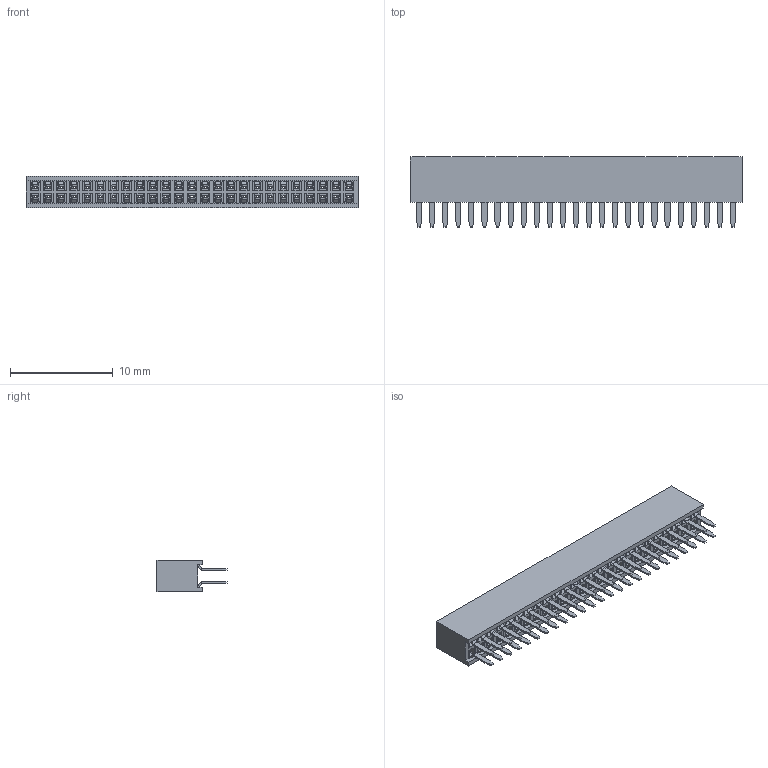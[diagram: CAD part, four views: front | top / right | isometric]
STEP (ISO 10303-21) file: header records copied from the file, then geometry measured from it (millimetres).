
FILE_DESCRIPTION((''),'2;1');
FILE_NAME('M50-300_ASM','2011-08-03T',('wbourne'),(''),'PRO/ENGINEER BY PARAMETRIC TECHNOLOGY CORPORATION, 2010280','PRO/ENGINEER BY PARAMETRIC TECHNOLOGY CORPORATION, 2010280','');
FILE_SCHEMA(('CONFIG_CONTROL_DESIGN','SHAPE_APPEARANCE_LAYERS_GROUPS'));
Length unit declared in the file: millimetre
Products named in the file (3): M50-300-MOULD; M50-300-CONTACT; M50-300_ASM
Assembly tree (51 placements, depth 2):
  M50-300_ASM
    M50-300-MOULD
    M50-300-CONTACT  x50
Bounding box: 32.25 x 6.8 x 3.1 mm (x, y, z)
Volume: 295.8 mm3; surface area: 2155 mm2
Topology: 51 solids, 51 shells, 3710 faces, 10224 edges, 6616 vertices
Faces by surface type: plane 2610, cylinder 1100
Entity records: 26350 total; most frequent: CARTESIAN_POINT 3650, ORIENTED_EDGE 3592, DIRECTION 3292, PRESENTATION_STYLE_ASSIGNMENT 1798, STYLED_ITEM 1798, CURVE_STYLE 1796, EDGE_CURVE 1796, VECTOR 1752
